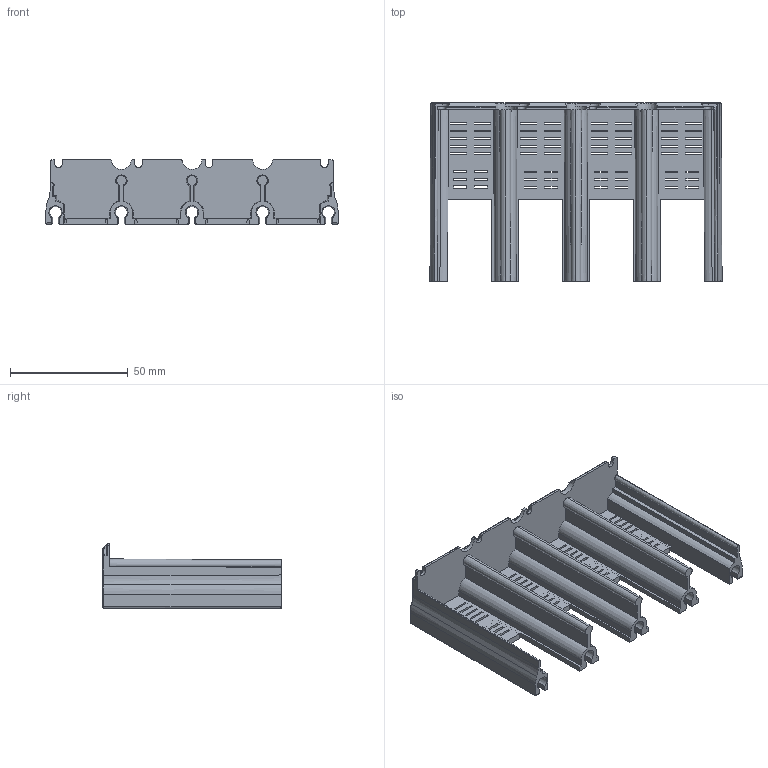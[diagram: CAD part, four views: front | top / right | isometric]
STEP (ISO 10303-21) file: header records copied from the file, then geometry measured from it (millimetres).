
FILE_DESCRIPTION (( 'STEP AP203' ), '1' );
FILE_NAME ('5-160-4-傷赽欶.STEP', '2024-11-05T02:37:44', ( 'A' ), ( '' ), 'SwSTEP 2.0', 'SolidWorks 2018', '' );
FILE_SCHEMA (( 'CONFIG_CONTROL_DESIGN' ));
Length unit declared in the file: millimetre
Products named in the file (1): 5-160-4-傷赽欶
Bounding box: 124.14 x 76 x 27.3 mm (x, y, z)
Volume: 41500.6 mm3; surface area: 40504.7 mm2
Topology: 1 solids, 1 shells, 531 faces, 1511 edges, 975 vertices
Faces by surface type: plane 385, cylinder 61, cone 44, bspline 23, sphere 11, torus 7
Entity records: 17741 total; most frequent: CARTESIAN_POINT 4078, ORIENTED_EDGE 3008, DIRECTION 2477, EDGE_CURVE 1504, VECTOR 1181, LINE 1181, VERTEX_POINT 975, EDGE_LOOP 659
